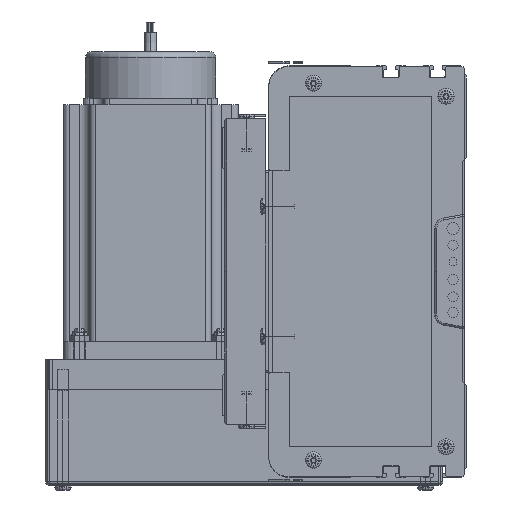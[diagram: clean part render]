
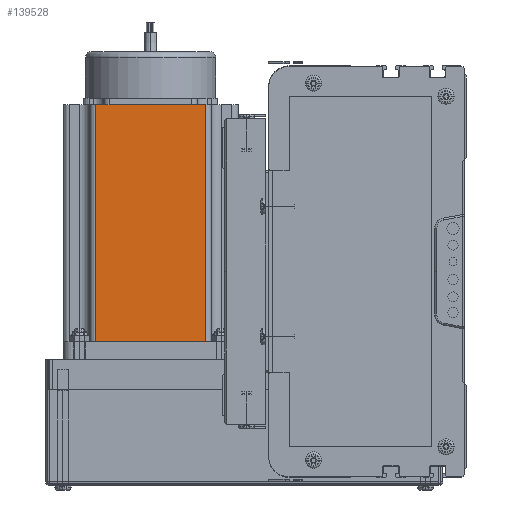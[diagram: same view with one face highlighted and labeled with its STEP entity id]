
A CAD part, left-side view. The second image highlights one B-rep face of the part: STEP entity #139528.
In plain terms, the highlighted planar face has unit normal (-1, 0, 0) as drawn and (0, -1, 0) by its records, which use the part's own axes.
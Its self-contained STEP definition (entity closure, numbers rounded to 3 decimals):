
#84268 = CARTESIAN_POINT ( 'NONE',  ( 69.74, 0., 0. ) ) ;
#84331 = DIRECTION ( 'NONE',  ( 0., 1., 0. ) ) ;
#84332 = DIRECTION ( 'NONE',  ( 1., 0., 0. ) ) ;
#84333 = VECTOR ( 'NONE', #84332, 1000. ) ;
#84334 = CARTESIAN_POINT ( 'NONE',  ( 0., 0., 0. ) ) ;
#84335 = LINE ( 'NONE', #84334, #84333 ) ;
#84346 = DIRECTION ( 'NONE',  ( 0., 0., -1. ) ) ;
#84347 = VECTOR ( 'NONE', #84346, 1000. ) ;
#84348 = CARTESIAN_POINT ( 'NONE',  ( 16.16, 0., 116.5 ) ) ;
#84349 = LINE ( 'NONE', #84348, #84347 ) ;
#84351 = DIRECTION ( 'NONE',  ( 1., 0., 0. ) ) ;
#84352 = VECTOR ( 'NONE', #84351, 1000. ) ;
#84353 = CARTESIAN_POINT ( 'NONE',  ( 0., 0., 116.5 ) ) ;
#84354 = LINE ( 'NONE', #84353, #84352 ) ;
#84359 = CARTESIAN_POINT ( 'NONE',  ( 16.16, 0., 116.5 ) ) ;
#84361 = DIRECTION ( 'NONE',  ( 0., 0., 1. ) ) ;
#84364 = CARTESIAN_POINT ( 'NONE',  ( 0., 0., 116.5 ) ) ;
#84371 = AXIS2_PLACEMENT_3D ( 'NONE', #84364, #84331, #84361 ) ;
#84379 = FACE_OUTER_BOUND ( 'NONE', #139279, .T. ) ;
#84413 = PLANE ( 'NONE',  #84371 ) ;
#84422 = CARTESIAN_POINT ( 'NONE',  ( 69.74, 0., 116.5 ) ) ;
#84616 = CARTESIAN_POINT ( 'NONE',  ( 16.16, 0., 0. ) ) ;
#84623 = DIRECTION ( 'NONE',  ( 0., 0., 1. ) ) ;
#84624 = VECTOR ( 'NONE', #84623, 1000. ) ;
#84626 = CARTESIAN_POINT ( 'NONE',  ( 69.74, 0., 116.5 ) ) ;
#84627 = LINE ( 'NONE', #84626, #84624 ) ;
#139279 = EDGE_LOOP ( 'NONE', ( #139749, #139748, #139597, #139519 ) ) ;
#139355 = VERTEX_POINT ( 'NONE', #84268 ) ;
#139441 = EDGE_CURVE ( 'NONE', #139445, #139621, #84354, .T. ) ;
#139445 = VERTEX_POINT ( 'NONE', #84359 ) ;
#139447 = EDGE_CURVE ( 'NONE', #139445, #139849, #84349, .T. ) ;
#139477 = EDGE_CURVE ( 'NONE', #139849, #139355, #84335, .T. ) ;
#139519 = ORIENTED_EDGE ( 'NONE', *, *, #139447, .T. ) ;
#139528 = ADVANCED_FACE ( 'NONE', ( #84379 ), #84413, .F. ) ;
#139597 = ORIENTED_EDGE ( 'NONE', *, *, #139441, .F. ) ;
#139621 = VERTEX_POINT ( 'NONE', #84422 ) ;
#139748 = ORIENTED_EDGE ( 'NONE', *, *, #139828, .T. ) ;
#139749 = ORIENTED_EDGE ( 'NONE', *, *, #139477, .T. ) ;
#139828 = EDGE_CURVE ( 'NONE', #139355, #139621, #84627, .T. ) ;
#139849 = VERTEX_POINT ( 'NONE', #84616 ) ;
